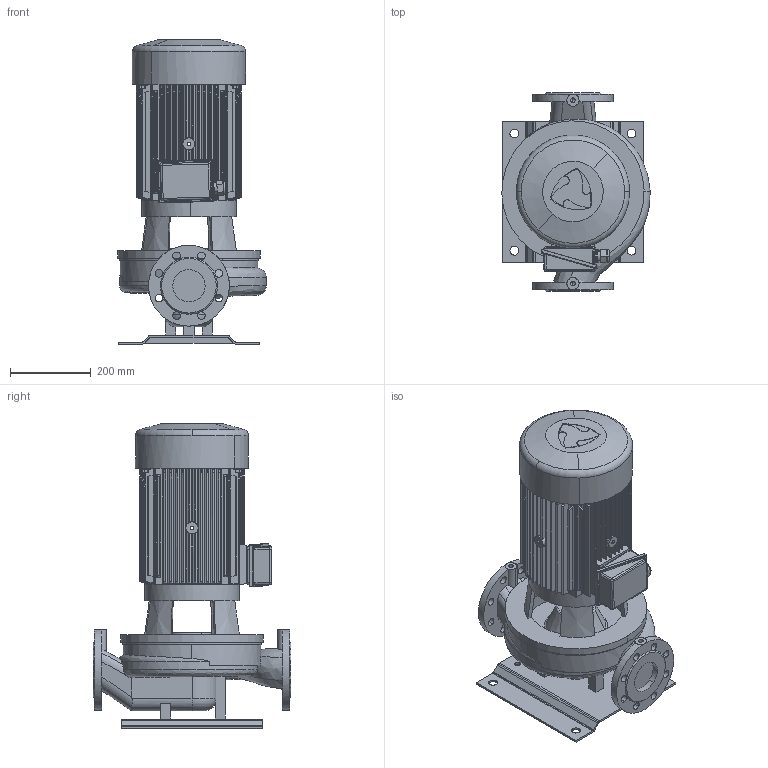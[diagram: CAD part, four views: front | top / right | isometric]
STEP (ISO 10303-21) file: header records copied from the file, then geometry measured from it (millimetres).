
FILE_DESCRIPTION(('STEP AP214'),'1');
FILE_NAME('export.stp','2019-09-24T07:39:19',(' '),(' '),'Spatial InterOp 3D',' ',' ');
FILE_SCHEMA(('AUTOMOTIVE_DESIGN { 1 0 10303 214 1 1 1 1 }'));
Length unit declared in the file: millimetre
Products named in the file (11): W_L80S4750_KP-134; V_TLL50S80S; V_PPL80S; P100496; P100495; P100342; V_MKP-134-F29; TSUOJA_OKN_132_133; KYTKOTELO_OKN_100_133; R201240; V_EKF29OKN132
Assembly tree (11 placements, depth 3):
  W_L80S4750_KP-134
    V_TLL50S80S
    V_PPL80S
    P100496
      P100495  x2
      P100342
    V_MKP-134-F29
      TSUOJA_OKN_132_133
      KYTKOTELO_OKN_100_133
      R201240
      V_EKF29OKN132
Bounding box: 366.93 x 490 x 754 mm (x, y, z)
Volume: 23543644.5 mm3; surface area: 2533070.7 mm2
Topology: 9 solids, 10 shells, 1212 faces, 3374 edges, 2173 vertices
Faces by surface type: cylinder 641, plane 389, cone 100, bspline 50, torus 20, sphere 12
Entity records: 60527 total; most frequent: CARTESIAN_POINT 17220, ORIENTED_EDGE 6644, DIRECTION 6201, EDGE_CURVE 3322, AXIS2_PLACEMENT_3D 2393, VERTEX_POINT 2165, STYLED_ITEM 1815, PRESENTATION_STYLE_ASSIGNMENT 1815
